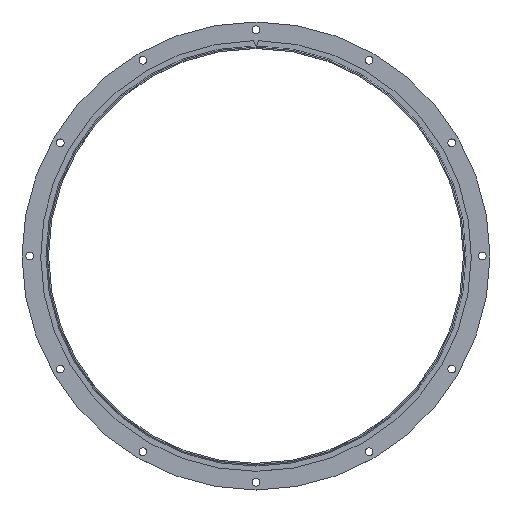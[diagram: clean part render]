
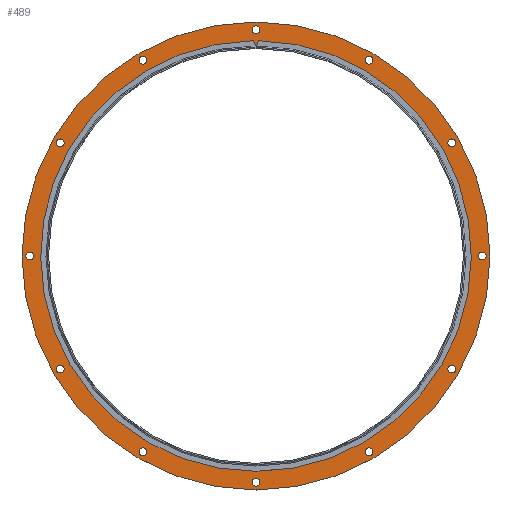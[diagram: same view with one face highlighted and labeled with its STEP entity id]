
A CAD part, top view. The second image highlights one B-rep face of the part: STEP entity #489.
In plain terms, the highlighted planar face has unit normal (0, 0, 1).
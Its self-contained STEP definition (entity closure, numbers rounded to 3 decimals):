
#61=PLANE('',#604);
#84=FACE_BOUND('',#167,.T.);
#85=FACE_BOUND('',#168,.T.);
#86=FACE_BOUND('',#169,.T.);
#87=FACE_BOUND('',#170,.T.);
#88=FACE_BOUND('',#171,.T.);
#89=FACE_BOUND('',#172,.T.);
#90=FACE_BOUND('',#173,.T.);
#91=FACE_BOUND('',#174,.T.);
#92=FACE_BOUND('',#175,.T.);
#93=FACE_BOUND('',#176,.T.);
#94=FACE_BOUND('',#177,.T.);
#95=FACE_BOUND('',#178,.T.);
#96=FACE_BOUND('',#179,.T.);
#124=FACE_OUTER_BOUND('',#166,.T.);
#166=EDGE_LOOP('',(#374));
#167=EDGE_LOOP('',(#375));
#168=EDGE_LOOP('',(#376));
#169=EDGE_LOOP('',(#377));
#170=EDGE_LOOP('',(#378));
#171=EDGE_LOOP('',(#379));
#172=EDGE_LOOP('',(#380));
#173=EDGE_LOOP('',(#381));
#174=EDGE_LOOP('',(#382));
#175=EDGE_LOOP('',(#383));
#176=EDGE_LOOP('',(#384));
#177=EDGE_LOOP('',(#385));
#178=EDGE_LOOP('',(#386));
#179=EDGE_LOOP('',(#387));
#206=CIRCLE('',#563,317.);
#208=CIRCLE('',#566,6.);
#210=CIRCLE('',#569,6.);
#212=CIRCLE('',#572,6.);
#214=CIRCLE('',#575,6.);
#216=CIRCLE('',#578,6.);
#218=CIRCLE('',#581,6.);
#220=CIRCLE('',#584,6.);
#222=CIRCLE('',#587,6.);
#224=CIRCLE('',#590,6.);
#226=CIRCLE('',#593,6.);
#228=CIRCLE('',#596,6.);
#230=CIRCLE('',#599,6.);
#232=CIRCLE('',#602,357.);
#244=VERTEX_POINT('',#802);
#246=VERTEX_POINT('',#807);
#248=VERTEX_POINT('',#812);
#250=VERTEX_POINT('',#817);
#252=VERTEX_POINT('',#822);
#254=VERTEX_POINT('',#827);
#256=VERTEX_POINT('',#832);
#258=VERTEX_POINT('',#837);
#260=VERTEX_POINT('',#842);
#262=VERTEX_POINT('',#847);
#264=VERTEX_POINT('',#852);
#266=VERTEX_POINT('',#857);
#268=VERTEX_POINT('',#862);
#270=VERTEX_POINT('',#867);
#290=EDGE_CURVE('',#244,#244,#206,.T.);
#292=EDGE_CURVE('',#246,#246,#208,.T.);
#294=EDGE_CURVE('',#248,#248,#210,.T.);
#296=EDGE_CURVE('',#250,#250,#212,.T.);
#298=EDGE_CURVE('',#252,#252,#214,.T.);
#300=EDGE_CURVE('',#254,#254,#216,.T.);
#302=EDGE_CURVE('',#256,#256,#218,.T.);
#304=EDGE_CURVE('',#258,#258,#220,.T.);
#306=EDGE_CURVE('',#260,#260,#222,.T.);
#308=EDGE_CURVE('',#262,#262,#224,.T.);
#310=EDGE_CURVE('',#264,#264,#226,.T.);
#312=EDGE_CURVE('',#266,#266,#228,.T.);
#314=EDGE_CURVE('',#268,#268,#230,.T.);
#316=EDGE_CURVE('',#270,#270,#232,.T.);
#374=ORIENTED_EDGE('',*,*,#316,.F.);
#375=ORIENTED_EDGE('',*,*,#290,.T.);
#376=ORIENTED_EDGE('',*,*,#292,.T.);
#377=ORIENTED_EDGE('',*,*,#294,.T.);
#378=ORIENTED_EDGE('',*,*,#296,.T.);
#379=ORIENTED_EDGE('',*,*,#298,.T.);
#380=ORIENTED_EDGE('',*,*,#300,.T.);
#381=ORIENTED_EDGE('',*,*,#302,.T.);
#382=ORIENTED_EDGE('',*,*,#304,.T.);
#383=ORIENTED_EDGE('',*,*,#306,.T.);
#384=ORIENTED_EDGE('',*,*,#308,.T.);
#385=ORIENTED_EDGE('',*,*,#310,.T.);
#386=ORIENTED_EDGE('',*,*,#312,.T.);
#387=ORIENTED_EDGE('',*,*,#314,.T.);
#489=ADVANCED_FACE('',(#124,#84,#85,#86,#87,#88,#89,#90,#91,#92,#93,#94,
#95,#96),#61,.F.);
#563=AXIS2_PLACEMENT_3D('',#803,#641,#642);
#566=AXIS2_PLACEMENT_3D('',#808,#647,#648);
#569=AXIS2_PLACEMENT_3D('',#813,#653,#654);
#572=AXIS2_PLACEMENT_3D('',#818,#659,#660);
#575=AXIS2_PLACEMENT_3D('',#823,#665,#666);
#578=AXIS2_PLACEMENT_3D('',#828,#671,#672);
#581=AXIS2_PLACEMENT_3D('',#833,#677,#678);
#584=AXIS2_PLACEMENT_3D('',#838,#683,#684);
#587=AXIS2_PLACEMENT_3D('',#843,#689,#690);
#590=AXIS2_PLACEMENT_3D('',#848,#695,#696);
#593=AXIS2_PLACEMENT_3D('',#853,#701,#702);
#596=AXIS2_PLACEMENT_3D('',#858,#707,#708);
#599=AXIS2_PLACEMENT_3D('',#863,#713,#714);
#602=AXIS2_PLACEMENT_3D('',#868,#719,#720);
#604=AXIS2_PLACEMENT_3D('',#871,#723,#724);
#641=DIRECTION('center_axis',(0.,0.,-1.));
#642=DIRECTION('ref_axis',(-1.,0.,0.));
#647=DIRECTION('center_axis',(0.,0.,-1.));
#648=DIRECTION('ref_axis',(-1.,0.,0.));
#653=DIRECTION('center_axis',(0.,0.,-1.));
#654=DIRECTION('ref_axis',(-1.,0.,0.));
#659=DIRECTION('center_axis',(0.,0.,-1.));
#660=DIRECTION('ref_axis',(-1.,0.,0.));
#665=DIRECTION('center_axis',(0.,0.,-1.));
#666=DIRECTION('ref_axis',(-1.,0.,0.));
#671=DIRECTION('center_axis',(0.,0.,-1.));
#672=DIRECTION('ref_axis',(-1.,0.,0.));
#677=DIRECTION('center_axis',(0.,0.,-1.));
#678=DIRECTION('ref_axis',(-1.,0.,0.));
#683=DIRECTION('center_axis',(0.,0.,-1.));
#684=DIRECTION('ref_axis',(-1.,0.,0.));
#689=DIRECTION('center_axis',(0.,0.,-1.));
#690=DIRECTION('ref_axis',(-1.,0.,0.));
#695=DIRECTION('center_axis',(0.,0.,-1.));
#696=DIRECTION('ref_axis',(-1.,0.,0.));
#701=DIRECTION('center_axis',(0.,0.,-1.));
#702=DIRECTION('ref_axis',(-1.,0.,0.));
#707=DIRECTION('center_axis',(0.,0.,-1.));
#708=DIRECTION('ref_axis',(-1.,0.,0.));
#713=DIRECTION('center_axis',(0.,0.,-1.));
#714=DIRECTION('ref_axis',(-1.,0.,0.));
#719=DIRECTION('center_axis',(0.,0.,-1.));
#720=DIRECTION('ref_axis',(-1.,0.,0.));
#723=DIRECTION('center_axis',(0.,0.,-1.));
#724=DIRECTION('ref_axis',(-1.,0.,0.));
#802=CARTESIAN_POINT('',(317.,0.,3.));
#803=CARTESIAN_POINT('Origin',(0.,0.,3.));
#807=CARTESIAN_POINT('',(178.5,298.779,3.));
#808=CARTESIAN_POINT('Origin',(172.5,298.779,3.));
#812=CARTESIAN_POINT('',(304.779,172.5,3.));
#813=CARTESIAN_POINT('Origin',(298.779,172.5,3.));
#817=CARTESIAN_POINT('',(351.,0.,3.));
#818=CARTESIAN_POINT('Origin',(345.,0.,3.));
#822=CARTESIAN_POINT('',(304.779,-172.5,3.));
#823=CARTESIAN_POINT('Origin',(298.779,-172.5,3.));
#827=CARTESIAN_POINT('',(178.5,-298.779,3.));
#828=CARTESIAN_POINT('Origin',(172.5,-298.779,3.));
#832=CARTESIAN_POINT('',(6.,-345.,3.));
#833=CARTESIAN_POINT('Origin',(0.,-345.,3.));
#837=CARTESIAN_POINT('',(-166.5,-298.779,3.));
#838=CARTESIAN_POINT('Origin',(-172.5,-298.779,3.));
#842=CARTESIAN_POINT('',(-292.779,-172.5,3.));
#843=CARTESIAN_POINT('Origin',(-298.779,-172.5,3.));
#847=CARTESIAN_POINT('',(-339.,0.,3.));
#848=CARTESIAN_POINT('Origin',(-345.,0.,3.));
#852=CARTESIAN_POINT('',(-292.779,172.5,3.));
#853=CARTESIAN_POINT('Origin',(-298.779,172.5,3.));
#857=CARTESIAN_POINT('',(-166.5,298.779,3.));
#858=CARTESIAN_POINT('Origin',(-172.5,298.779,3.));
#862=CARTESIAN_POINT('',(6.,345.,3.));
#863=CARTESIAN_POINT('Origin',(0.,345.,3.));
#867=CARTESIAN_POINT('',(357.,0.,3.));
#868=CARTESIAN_POINT('Origin',(0.,0.,3.));
#871=CARTESIAN_POINT('Origin',(0.,0.,3.));
